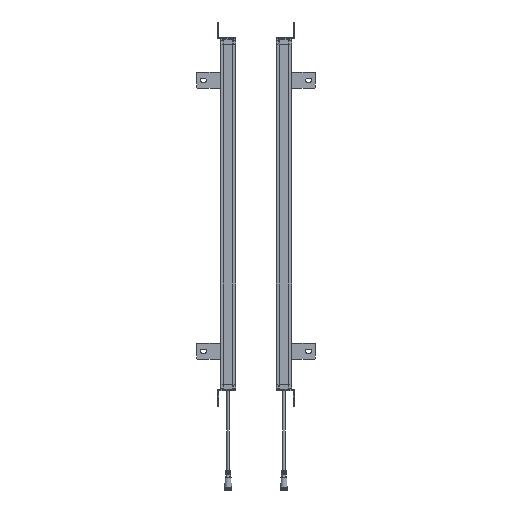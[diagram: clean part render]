
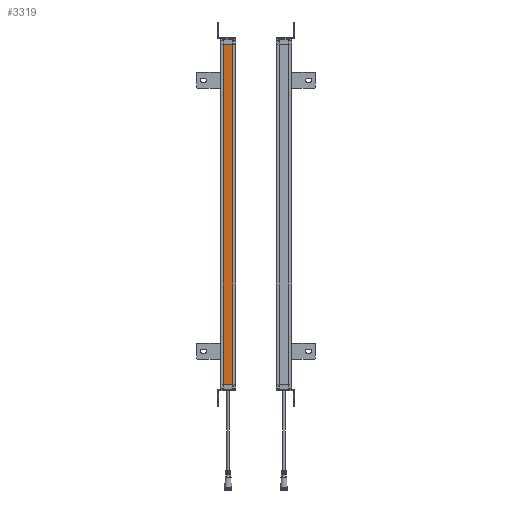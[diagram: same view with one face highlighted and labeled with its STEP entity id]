
A CAD part, left-side view. The second image highlights one B-rep face of the part: STEP entity #3319.
In plain terms, the highlighted planar face has unit normal (-1, 0, 0).
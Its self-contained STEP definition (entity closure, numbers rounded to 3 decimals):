
#1795=FACE_OUTER_BOUND('',#5986,.T.);
#3319=ADVANCED_FACE('',(#1795),#4749,.T.);
#4749=PLANE('',#29857);
#5986=EDGE_LOOP('',(#9184,#9185,#9186,#9187));
#9184=ORIENTED_EDGE('',*,*,#19383,.F.);
#9185=ORIENTED_EDGE('',*,*,#19072,.T.);
#9186=ORIENTED_EDGE('',*,*,#19385,.T.);
#9187=ORIENTED_EDGE('',*,*,#19386,.F.);
#16145=VERTEX_POINT('',#43699);
#16146=VERTEX_POINT('',#43701);
#16357=VERTEX_POINT('',#44323);
#16358=VERTEX_POINT('',#44327);
#19072=EDGE_CURVE('',#16146,#16145,#24663,.T.);
#19383=EDGE_CURVE('',#16146,#16357,#24884,.T.);
#19385=EDGE_CURVE('',#16145,#16358,#24886,.T.);
#19386=EDGE_CURVE('',#16357,#16358,#24887,.T.);
#24663=LINE('',#43700,#27142);
#24884=LINE('',#44322,#27363);
#24886=LINE('',#44326,#27365);
#24887=LINE('',#44328,#27366);
#27142=VECTOR('',#33404,1.);
#27363=VECTOR('',#34005,1.);
#27365=VECTOR('',#34009,1.);
#27366=VECTOR('',#34010,1.);
#29857=AXIS2_PLACEMENT_3D('',#44329,#34011,#34012);
#33404=DIRECTION('',(0.,1.,0.));
#34005=DIRECTION('',(0.,0.,-1.));
#34009=DIRECTION('',(0.,0.,-1.));
#34010=DIRECTION('',(0.,1.,0.));
#34011=DIRECTION('',(-1.,0.,0.));
#34012=DIRECTION('',(0.,-1.,0.));
#43699=CARTESIAN_POINT('',(50.4,-5.5,598.059));
#43700=CARTESIAN_POINT('',(50.4,-5.5,598.059));
#43701=CARTESIAN_POINT('',(50.4,-23.5,598.059));
#44322=CARTESIAN_POINT('',(50.4,-23.5,103.059));
#44323=CARTESIAN_POINT('',(50.4,-23.5,-41.941));
#44326=CARTESIAN_POINT('',(50.4,-5.5,103.059));
#44327=CARTESIAN_POINT('',(50.4,-5.5,-41.941));
#44328=CARTESIAN_POINT('',(50.4,-23.5,-41.941));
#44329=CARTESIAN_POINT('',(50.4,-5.5,-61.941));
